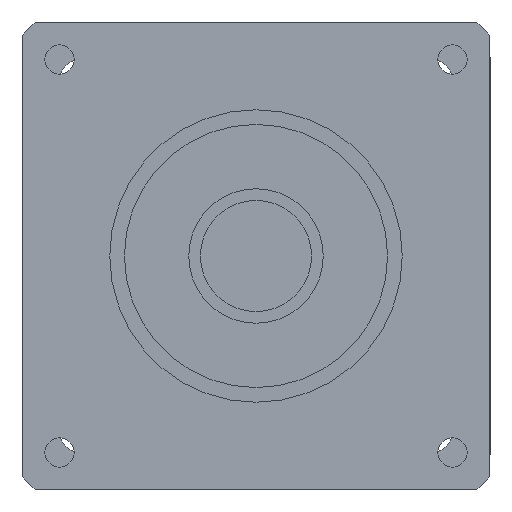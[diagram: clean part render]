
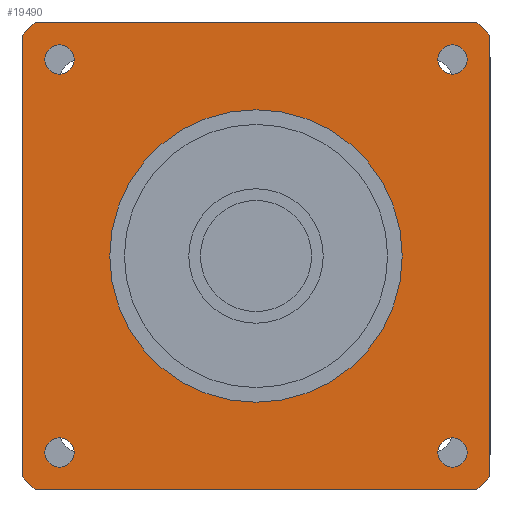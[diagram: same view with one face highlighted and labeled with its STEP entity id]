
A CAD part, left-side view. The second image highlights one B-rep face of the part: STEP entity #19490.
In plain terms, the highlighted planar face has unit normal (-1, 0, 0) as drawn and (0, 0, -1) by its records, which use the part's own axes.
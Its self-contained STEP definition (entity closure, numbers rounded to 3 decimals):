
#13830=CARTESIAN_POINT('',(-37.749,40.,-42.));
#13840=VERTEX_POINT('',#13830);
#14020=CARTESIAN_POINT('',(-40.,37.749,-42.));
#14030=VERTEX_POINT('',#14020);
#14060=CARTESIAN_POINT('',(0.,0.,
-42.));
#14070=DIRECTION('',(0.,0.,1.));
#14080=DIRECTION('',(0.,1.,0.));
#14090=AXIS2_PLACEMENT_3D('',#14060,#14070,#14080);
#14100=CIRCLE('',#14090,55.);
#14110=EDGE_CURVE('',#13840,#14030,#14100,.T.);
#14250=CARTESIAN_POINT('',(-40.,-37.749,-42.));
#14260=VERTEX_POINT('',#14250);
#14310=CARTESIAN_POINT('',(-40.,40.,-42.));
#14320=DIRECTION('',(0.,-1.,0.));
#14330=VECTOR('',#14320,1000.);
#14340=LINE('',#14310,#14330);
#14350=EDGE_CURVE('',#14030,#14260,#14340,.T.);
#18030=CARTESIAN_POINT('',(33.588,-31.088,-42.));
#18040=VERTEX_POINT('',#18030);
#18120=CARTESIAN_POINT('',(33.588,-36.088,-42.));
#18130=VERTEX_POINT('',#18120);
#18160=CARTESIAN_POINT('',(33.588,-33.588,-42.));
#18170=DIRECTION('',(0.,0.,1.));
#18180=DIRECTION('',(0.,1.,0.));
#18190=AXIS2_PLACEMENT_3D('',#18160,#18170,#18180);
#18200=CIRCLE('',#18190,2.5);
#18210=EDGE_CURVE('',#18130,#18040,#18200,.T.);
#18260=CARTESIAN_POINT('',(40.,-40.,-42.));
#18270=DIRECTION('',(0.,0.,1.));
#18280=DIRECTION('',(0.,1.,0.));
#18290=AXIS2_PLACEMENT_3D('',#18260,#18270,#18280);
#18300=PLANE('',#18290);
#18310=CARTESIAN_POINT('',(-33.588,-33.588,-42.));
#18320=DIRECTION('',(0.,0.,1.));
#18330=DIRECTION('',(0.,1.,0.));
#18340=AXIS2_PLACEMENT_3D('',#18310,#18320,#18330);
#18350=CIRCLE('',#18340,2.5);
#18360=CARTESIAN_POINT('',(-33.588,-31.088,-42.));
#18370=VERTEX_POINT('',#18360);
#18380=CARTESIAN_POINT('',(-33.588,-36.088,-42.));
#18390=VERTEX_POINT('',#18380);
#18400=EDGE_CURVE('',#18370,#18390,#18350,.T.);
#18410=ORIENTED_EDGE('',*,*,#18400,.T.);
#18420=EDGE_CURVE('',#18390,#18370,#18350,.T.);
#18430=ORIENTED_EDGE('',*,*,#18420,.T.);
#18440=EDGE_LOOP('',(#18430,#18410));
#18450=FACE_BOUND('',#18440,.T.);
#18460=CARTESIAN_POINT('',(33.588,33.588,-42.));
#18470=DIRECTION('',(0.,0.,1.));
#18480=DIRECTION('',(0.,1.,0.));
#18490=AXIS2_PLACEMENT_3D('',#18460,#18470,#18480);
#18500=CIRCLE('',#18490,2.5);
#18510=CARTESIAN_POINT('',(33.588,36.088,-42.));
#18520=VERTEX_POINT('',#18510);
#18530=CARTESIAN_POINT('',(33.588,31.088,-42.));
#18540=VERTEX_POINT('',#18530);
#18550=EDGE_CURVE('',#18520,#18540,#18500,.T.);
#18560=ORIENTED_EDGE('',*,*,#18550,.T.);
#18570=EDGE_CURVE('',#18540,#18520,#18500,.T.);
#18580=ORIENTED_EDGE('',*,*,#18570,.T.);
#18590=EDGE_LOOP('',(#18580,#18560));
#18600=FACE_BOUND('',#18590,.T.);
#18610=CARTESIAN_POINT('',(-33.588,33.588,-42.));
#18620=DIRECTION('',(0.,0.,1.));
#18630=DIRECTION('',(0.,1.,0.));
#18640=AXIS2_PLACEMENT_3D('',#18610,#18620,#18630);
#18650=CIRCLE('',#18640,2.5);
#18660=CARTESIAN_POINT('',(-33.588,36.088,-42.));
#18670=VERTEX_POINT('',#18660);
#18680=CARTESIAN_POINT('',(-33.588,31.088,-42.));
#18690=VERTEX_POINT('',#18680);
#18700=EDGE_CURVE('',#18670,#18690,#18650,.T.);
#18710=ORIENTED_EDGE('',*,*,#18700,.T.);
#18720=EDGE_CURVE('',#18690,#18670,#18650,.T.);
#18730=ORIENTED_EDGE('',*,*,#18720,.T.);
#18740=EDGE_LOOP('',(#18730,#18710));
#18750=FACE_BOUND('',#18740,.T.);
#18760=CARTESIAN_POINT('',(0.,0.,
-42.));
#18770=DIRECTION('',(0.,0.,1.));
#18780=DIRECTION('',(0.,-1.,0.));
#18790=AXIS2_PLACEMENT_3D('',#18760,#18770,#18780);
#18800=CIRCLE('',#18790,25.);
#18810=CARTESIAN_POINT('',(0.,-25.,-42.));
#18820=VERTEX_POINT('',#18810);
#18830=CARTESIAN_POINT('',(0.,25.,-42.));
#18840=VERTEX_POINT('',#18830);
#18850=EDGE_CURVE('',#18820,#18840,#18800,.T.);
#18860=ORIENTED_EDGE('',*,*,#18850,.T.);
#18870=EDGE_CURVE('',#18840,#18820,#18800,.T.);
#18880=ORIENTED_EDGE('',*,*,#18870,.T.);
#18890=EDGE_LOOP('',(#18880,#18860));
#18900=FACE_BOUND('',#18890,.T.);
#18910=EDGE_CURVE('',#18040,#18130,#18200,.T.);
#18920=ORIENTED_EDGE('',*,*,#18910,.T.);
#18930=ORIENTED_EDGE('',*,*,#18210,.T.);
#18940=EDGE_LOOP('',(#18930,#18920));
#18950=FACE_BOUND('',#18940,.T.);
#18960=ORIENTED_EDGE('',*,*,#14110,.F.);
#18970=ORIENTED_EDGE('',*,*,#14350,.F.);
#18980=CARTESIAN_POINT('',(0.,0.,
-42.));
#18990=DIRECTION('',(0.,0.,1.));
#19000=DIRECTION('',(0.,1.,0.));
#19010=AXIS2_PLACEMENT_3D('',#18980,#18990,#19000);
#19020=CIRCLE('',#19010,55.);
#19030=CARTESIAN_POINT('',(-37.749,-40.,-42.));
#19040=VERTEX_POINT('',#19030);
#19050=EDGE_CURVE('',#14260,#19040,#19020,.T.);
#19060=ORIENTED_EDGE('',*,*,#19050,.F.);
#19070=CARTESIAN_POINT('',(-40.,-40.,-42.));
#19080=DIRECTION('',(1.,0.,0.));
#19090=VECTOR('',#19080,1000.);
#19100=LINE('',#19070,#19090);
#19110=CARTESIAN_POINT('',(37.749,-40.,-42.));
#19120=VERTEX_POINT('',#19110);
#19130=EDGE_CURVE('',#19040,#19120,#19100,.T.);
#19140=ORIENTED_EDGE('',*,*,#19130,.F.);
#19150=CARTESIAN_POINT('',(0.,0.,
-42.));
#19160=DIRECTION('',(0.,0.,1.));
#19170=DIRECTION('',(0.,1.,0.));
#19180=AXIS2_PLACEMENT_3D('',#19150,#19160,#19170);
#19190=CIRCLE('',#19180,55.);
#19200=CARTESIAN_POINT('',(40.,-37.749,-42.));
#19210=VERTEX_POINT('',#19200);
#19220=EDGE_CURVE('',#19120,#19210,#19190,.T.);
#19230=ORIENTED_EDGE('',*,*,#19220,.F.);
#19240=CARTESIAN_POINT('',(40.,-40.,-42.));
#19250=DIRECTION('',(0.,1.,0.));
#19260=VECTOR('',#19250,1000.);
#19270=LINE('',#19240,#19260);
#19280=CARTESIAN_POINT('',(40.,37.749,-42.));
#19290=VERTEX_POINT('',#19280);
#19300=EDGE_CURVE('',#19210,#19290,#19270,.T.);
#19310=ORIENTED_EDGE('',*,*,#19300,.F.);
#19320=CARTESIAN_POINT('',(0.,0.,
-42.));
#19330=DIRECTION('',(0.,0.,1.));
#19340=DIRECTION('',(0.,1.,0.));
#19350=AXIS2_PLACEMENT_3D('',#19320,#19330,#19340);
#19360=CIRCLE('',#19350,55.);
#19370=CARTESIAN_POINT('',(37.749,40.,-42.));
#19380=VERTEX_POINT('',#19370);
#19390=EDGE_CURVE('',#19290,#19380,#19360,.T.);
#19400=ORIENTED_EDGE('',*,*,#19390,.F.);
#19410=CARTESIAN_POINT('',(40.,40.,-42.));
#19420=DIRECTION('',(-1.,0.,0.));
#19430=VECTOR('',#19420,1000.);
#19440=LINE('',#19410,#19430);
#19450=EDGE_CURVE('',#19380,#13840,#19440,.T.);
#19460=ORIENTED_EDGE('',*,*,#19450,.F.);
#19470=EDGE_LOOP('',(#19460,#19400,#19310,#19230,#19140,#19060,#18970,
#18960));
#19480=FACE_OUTER_BOUND('',#19470,.T.);
#19490=ADVANCED_FACE('',(#18450,#18600,#18750,#18900,#18950,#19480),
#18300,.F.);
